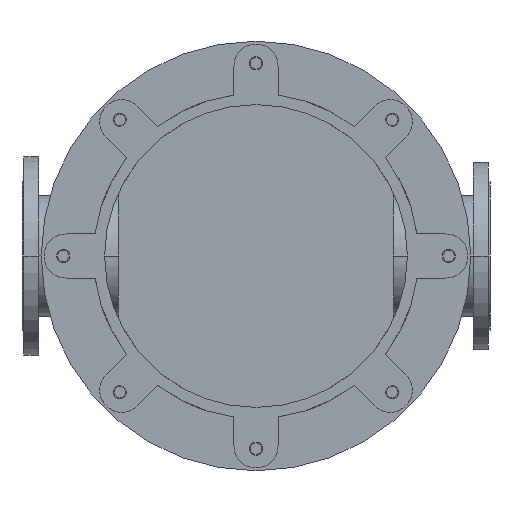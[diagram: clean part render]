
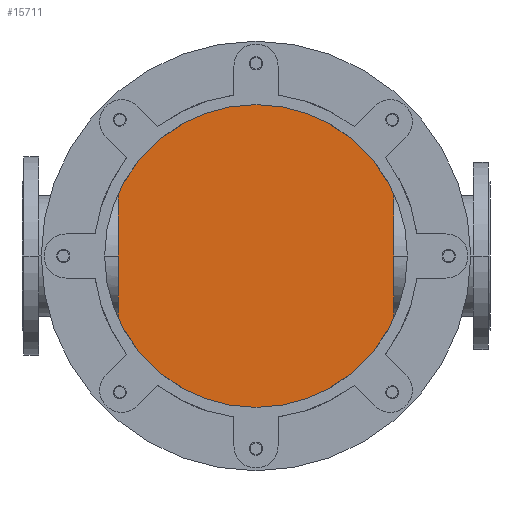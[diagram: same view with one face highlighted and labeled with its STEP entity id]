
A CAD part, front view. The second image highlights one B-rep face of the part: STEP entity #15711.
In plain terms, the highlighted planar face has unit normal (0, -1, 0).
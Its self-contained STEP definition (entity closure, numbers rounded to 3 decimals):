
#3896=CARTESIAN_POINT('',(0.,1359.,0.));
#3897=DIRECTION('',(0.,-1.,0.));
#3898=DIRECTION('',(0.,0.,-1.));
#3899=AXIS2_PLACEMENT_3D('',#3896,#3897,#3898);
#4044=CARTESIAN_POINT('',(0.,1359.,0.));
#4045=DIRECTION('',(0.,-1.,0.));
#4046=DIRECTION('',(0.,0.,1.));
#4047=AXIS2_PLACEMENT_3D('',#4044,#4045,#4046);
#9161=CARTESIAN_POINT('',(0.,1359.,290.));
#9162=CARTESIAN_POINT('',(0.,1359.,-290.));
#9163=VERTEX_POINT('',#9161);
#9164=VERTEX_POINT('',#9162);
#15702=CARTESIAN_POINT('',(0.,1359.,0.));
#15703=DIRECTION('',(0.,1.,0.));
#15704=DIRECTION('',(0.,0.,-1.));
#15705=AXIS2_PLACEMENT_3D('',#15702,#15703,#15704);
#15706=PLANE('',#15705);
#15707=ORIENTED_EDGE('',*,*,#15688,.F.);
#15708=ORIENTED_EDGE('',*,*,#15587,.F.);
#15709=EDGE_LOOP('',(#15707,#15708));
#15710=FACE_OUTER_BOUND('',#15709,.F.);
#15711=ADVANCED_FACE('',(#15710),#15706,.F.);
#3900=CIRCLE('',#3899,290.);
#4048=CIRCLE('',#4047,290.);
#15587=EDGE_CURVE('',#9164,#9163,#3900,.T.);
#15688=EDGE_CURVE('',#9163,#9164,#4048,.T.);
